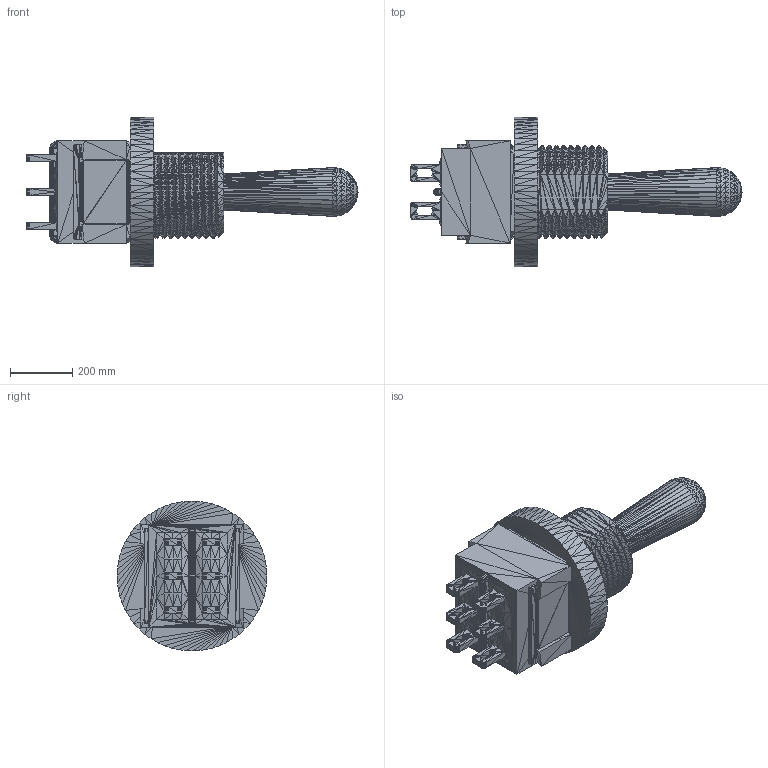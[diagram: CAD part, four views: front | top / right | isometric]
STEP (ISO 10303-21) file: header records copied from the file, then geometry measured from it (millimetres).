
FILE_DESCRIPTION(/* description */ (''),/* implementation_level */ '2;1');
FILE_NAME(/* name */ 'MTW 206 x.stp',/* time_stamp */ '2014-12-31T14:04:40.0511202',/* author */ ('knitter-switch'),/* organization */ (''),/* preprocessor_version */ 'InStep v2',/* originating_system */ 'InStep V2.3',/* authorisation */ '');
FILE_SCHEMA (('AUTOMOTIVE_DESIGN { 1 0 10303 214 1 1 1 1 }'));
Length unit declared in the file: centimetre
Products named in the file (1): None
Bounding box: 1069.34 x 482.6 x 482.6 mm (x, y, z)
Volume: 54367514.2 mm3; surface area: 1745404.8 mm2
Topology: 1 solids, 1 shells, 8626 faces, 12939 edges, 4303 vertices
Faces by surface type: plane 8626
Entity records: 129964 total; most frequent: ORIENTED_EDGE 25878, DIRECTION 17535, LINE 12939, EDGE_CURVE 12939, VECTOR 8907, AXIS2_PLACEMENT_3D 8627, EDGE_LOOP 8626, FACE_OUTER_BOUND 8626
